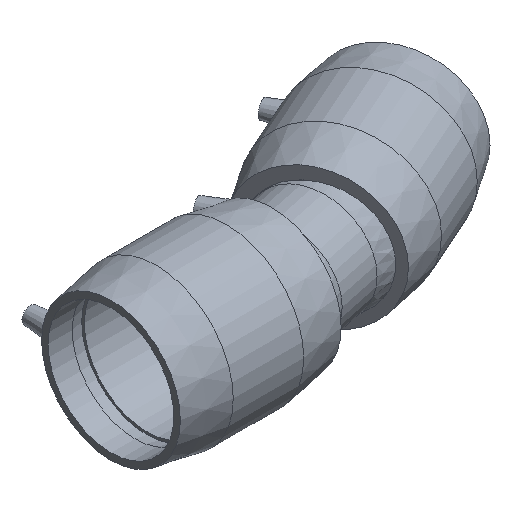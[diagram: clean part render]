
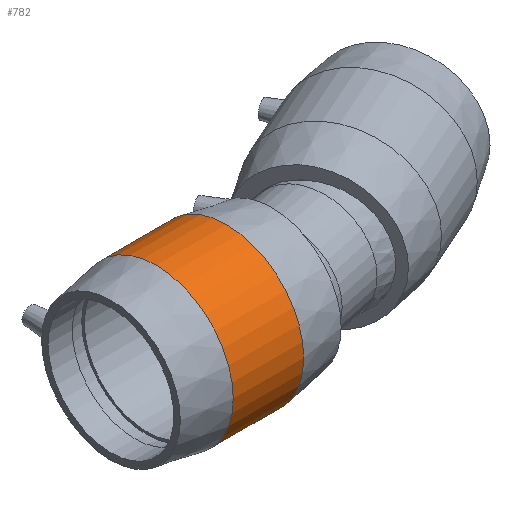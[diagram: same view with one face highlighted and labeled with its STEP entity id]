
A CAD part, isometric view. The second image highlights one B-rep face of the part: STEP entity #782.
In plain terms, the highlighted cylindrical face has radius 69.977 mm (diameter 139.954 mm), a full revolution.
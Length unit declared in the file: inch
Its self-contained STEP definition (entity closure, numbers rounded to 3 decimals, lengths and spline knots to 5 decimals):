
#54=LINE('',#1645,#82);
#82=VECTOR('',#1054,2.755);
#108=CYLINDRICAL_SURFACE('',#875,2.755);
#158=FACE_OUTER_BOUND('',#214,.T.);
#214=EDGE_LOOP('',(#608,#609,#610,#611,#612,#613));
#298=CIRCLE('',#876,2.755);
#299=CIRCLE('',#877,2.755);
#300=CIRCLE('',#878,2.755);
#301=CIRCLE('',#879,2.755);
#375=VERTEX_POINT('',#1640);
#376=VERTEX_POINT('',#1641);
#377=VERTEX_POINT('',#1644);
#378=VERTEX_POINT('',#1646);
#467=EDGE_CURVE('',#375,#376,#298,.T.);
#468=EDGE_CURVE('',#376,#375,#299,.T.);
#469=EDGE_CURVE('',#376,#377,#54,.T.);
#470=EDGE_CURVE('',#377,#378,#300,.T.);
#471=EDGE_CURVE('',#378,#377,#301,.T.);
#608=ORIENTED_EDGE('',*,*,#467,.F.);
#609=ORIENTED_EDGE('',*,*,#468,.F.);
#610=ORIENTED_EDGE('',*,*,#469,.T.);
#611=ORIENTED_EDGE('',*,*,#470,.T.);
#612=ORIENTED_EDGE('',*,*,#471,.T.);
#613=ORIENTED_EDGE('',*,*,#469,.F.);
#782=ADVANCED_FACE('',(#158),#108,.T.);
#875=AXIS2_PLACEMENT_3D('',#1639,#1048,#1049);
#876=AXIS2_PLACEMENT_3D('',#1642,#1050,#1051);
#877=AXIS2_PLACEMENT_3D('',#1643,#1052,#1053);
#878=AXIS2_PLACEMENT_3D('',#1647,#1055,#1056);
#879=AXIS2_PLACEMENT_3D('',#1648,#1057,#1058);
#1048=DIRECTION('center_axis',(1.,0.,0.));
#1049=DIRECTION('ref_axis',(0.,1.,0.));
#1050=DIRECTION('center_axis',(1.,0.,0.));
#1051=DIRECTION('ref_axis',(0.,0.,-1.));
#1052=DIRECTION('center_axis',(1.,0.,0.));
#1053=DIRECTION('ref_axis',(0.,0.,-1.));
#1054=DIRECTION('',(-1.,0.,0.));
#1055=DIRECTION('center_axis',(1.,0.,0.));
#1056=DIRECTION('ref_axis',(0.,0.,-1.));
#1057=DIRECTION('center_axis',(1.,0.,0.));
#1058=DIRECTION('ref_axis',(0.,0.,-1.));
#1639=CARTESIAN_POINT('Origin',(0.,0.,
0.));
#1640=CARTESIAN_POINT('',(1.259,2.755,0.));
#1641=CARTESIAN_POINT('',(1.259,-2.755,0.));
#1642=CARTESIAN_POINT('Origin',(1.259,0.,0.));
#1643=CARTESIAN_POINT('Origin',(1.259,0.,0.));
#1644=CARTESIAN_POINT('',(-1.259,-2.755,0.));
#1645=CARTESIAN_POINT('',(0.,-2.755,0.));
#1646=CARTESIAN_POINT('',(-1.259,2.755,0.));
#1647=CARTESIAN_POINT('Origin',(-1.259,0.,0.));
#1648=CARTESIAN_POINT('Origin',(-1.259,0.,0.));
